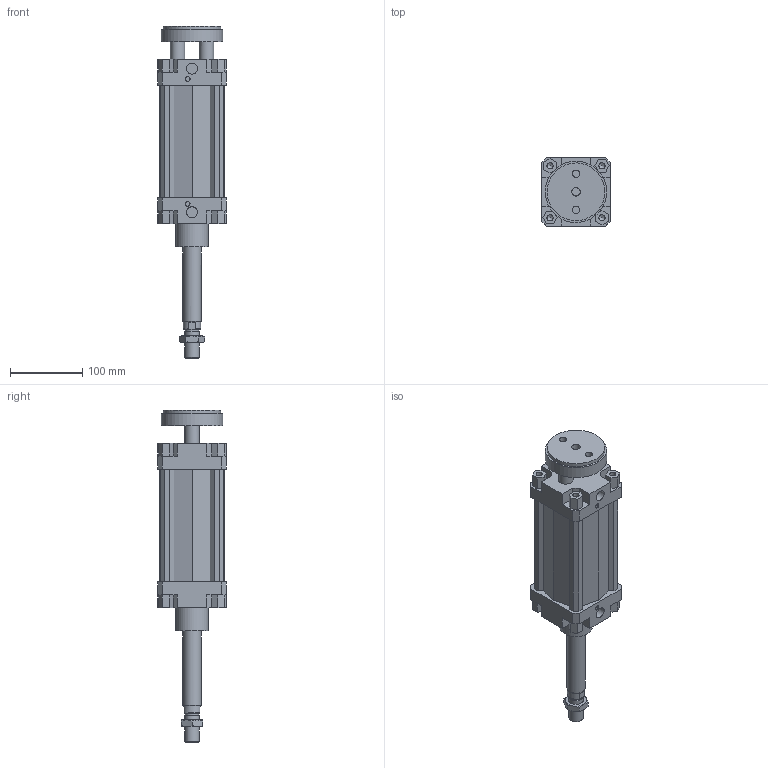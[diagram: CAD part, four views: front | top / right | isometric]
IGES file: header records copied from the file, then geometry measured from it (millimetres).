
Global section: file name: 132#_080_0100_02; native system: Autodesk Inventor 2014; preprocessor: unknown; author: A. Manieri; date: 20161006.162339; units: millimetre
Bounding box: 95 x 95 x 460 mm (x, y, z)
Volume: 1456662 mm3; surface area: 261868.9 mm2
Topology: 3 solids, 3 shells, 220 faces, 589 edges, 397 vertices
Faces by surface type: bspline 220
